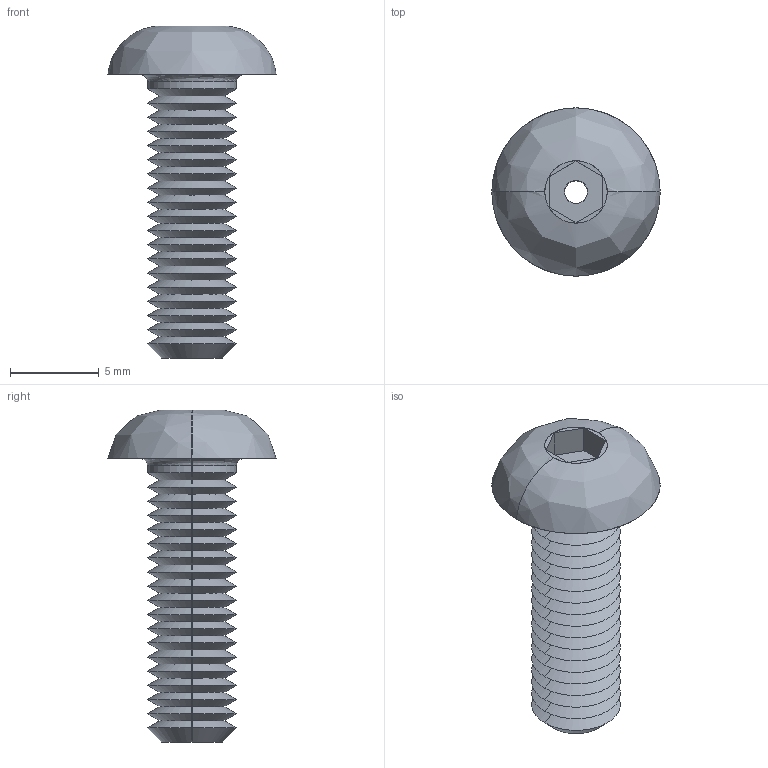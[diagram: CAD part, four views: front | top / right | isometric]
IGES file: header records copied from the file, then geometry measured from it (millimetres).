
Start section: SolidWorks IGES file using analytic representation for surfaces
Global section: file name: C:\Users\liam_\OneDrive\Documents\WORK\Work for WixRoyd\Job Files\J-00019 - Matt Davis CAD Checking\04. CAD Drawings\automotion20190605\P0094_v2\P0094_v2_20190712_IGES\P0094.050-016-A2.igs; native system: SolidWorks 2017; preprocessor: SolidWorks 2017; author: liam_; date: 190712.175405; units: millimetre
Bounding box: 9.5 x 9.5 x 18.75 mm (x, y, z)
Surface area: 669.6 mm2 (no closed solid volume)
Topology: 0 solids, 0 shells, 92 faces, 524 edges, 524 vertices
Faces by surface type: revolution 78, bspline 14
